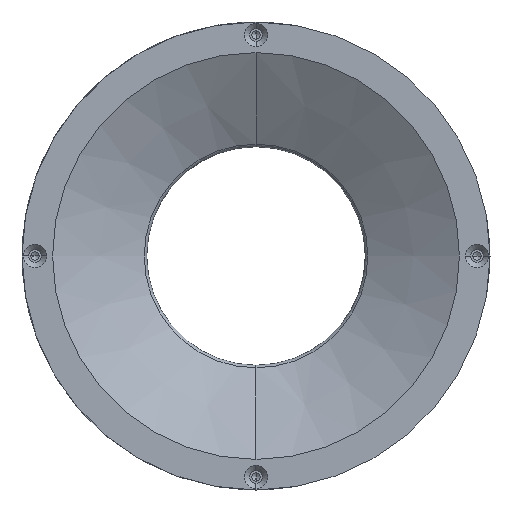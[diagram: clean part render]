
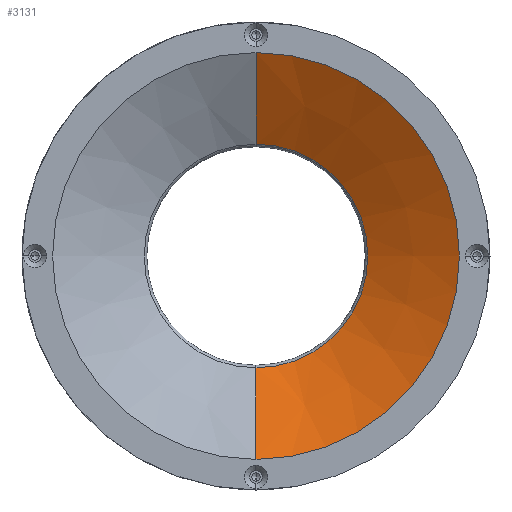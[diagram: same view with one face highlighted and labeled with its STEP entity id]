
A CAD part, front view. The second image highlights one B-rep face of the part: STEP entity #3131.
In plain terms, the highlighted conical face has half-angle 60 degrees and reference radius 39.122 mm.
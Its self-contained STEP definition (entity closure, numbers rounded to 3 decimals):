
#90 = DIRECTION ( 'NONE',  ( 0., 1., 0. ) ) ;
#142 = VERTEX_POINT ( 'NONE', #2474 ) ;
#242 = CARTESIAN_POINT ( 'NONE',  ( 0., 21.003, -39.122 ) ) ;
#550 = LINE ( 'NONE', #1868, #3527 ) ;
#559 = FACE_OUTER_BOUND ( 'NONE', #1003, .T. ) ;
#909 = VERTEX_POINT ( 'NONE', #3862 ) ;
#920 = DIRECTION ( 'NONE',  ( 0., -1., 0. ) ) ;
#974 = VECTOR ( 'NONE', #2251, 1000. ) ;
#1003 = EDGE_LOOP ( 'NONE', ( #1519, #3669, #2617, #2102 ) ) ;
#1052 = CIRCLE ( 'NONE', #1573, 39.122 ) ;
#1106 = CONICAL_SURFACE ( 'NONE', #5151, 39.122, 1.047 ) ;
#1151 = EDGE_CURVE ( 'NONE', #142, #4250, #5170, .T. ) ;
#1437 = DIRECTION ( 'NONE',  ( 0., 0., -1. ) ) ;
#1519 = ORIENTED_EDGE ( 'NONE', *, *, #1151, .T. ) ;
#1556 = CARTESIAN_POINT ( 'NONE',  ( 0., 21.003, 0. ) ) ;
#1573 = AXIS2_PLACEMENT_3D ( 'NONE', #1556, #4496, #1437 ) ;
#1637 = EDGE_CURVE ( 'NONE', #4250, #1782, #550, .T. ) ;
#1782 = VERTEX_POINT ( 'NONE', #242 ) ;
#1868 = CARTESIAN_POINT ( 'NONE',  ( 0., 21.003, -39.122 ) ) ;
#1912 = AXIS2_PLACEMENT_3D ( 'NONE', #5153, #920, #5096 ) ;
#2087 = EDGE_CURVE ( 'NONE', #909, #1782, #1052, .T. ) ;
#2088 = CARTESIAN_POINT ( 'NONE',  ( 0., 10.829, -21.5 ) ) ;
#2102 = ORIENTED_EDGE ( 'NONE', *, *, #2395, .F. ) ;
#2251 = DIRECTION ( 'NONE',  ( 0., 0.5, 0.866 ) ) ;
#2395 = EDGE_CURVE ( 'NONE', #142, #909, #3502, .T. ) ;
#2474 = CARTESIAN_POINT ( 'NONE',  ( 0., 10.829, 21.5 ) ) ;
#2617 = ORIENTED_EDGE ( 'NONE', *, *, #2087, .F. ) ;
#3131 = ADVANCED_FACE ( 'NONE', ( #559 ), #1106, .F. ) ;
#3502 = LINE ( 'NONE', #4386, #974 ) ;
#3517 = DIRECTION ( 'NONE',  ( 0., 0., 1. ) ) ;
#3527 = VECTOR ( 'NONE', #3869, 1000. ) ;
#3669 = ORIENTED_EDGE ( 'NONE', *, *, #1637, .T. ) ;
#3862 = CARTESIAN_POINT ( 'NONE',  ( 0., 21.003, 39.122 ) ) ;
#3869 = DIRECTION ( 'NONE',  ( 0., 0.5, -0.866 ) ) ;
#4250 = VERTEX_POINT ( 'NONE', #2088 ) ;
#4386 = CARTESIAN_POINT ( 'NONE',  ( 0., 21.003, 39.122 ) ) ;
#4496 = DIRECTION ( 'NONE',  ( 0., -1., 0. ) ) ;
#4794 = CARTESIAN_POINT ( 'NONE',  ( 0., 21.003, 0. ) ) ;
#5096 = DIRECTION ( 'NONE',  ( 0., 0., -1. ) ) ;
#5151 = AXIS2_PLACEMENT_3D ( 'NONE', #4794, #90, #3517 ) ;
#5153 = CARTESIAN_POINT ( 'NONE',  ( 0., 10.829, 0. ) ) ;
#5170 = CIRCLE ( 'NONE', #1912, 21.5 ) ;
